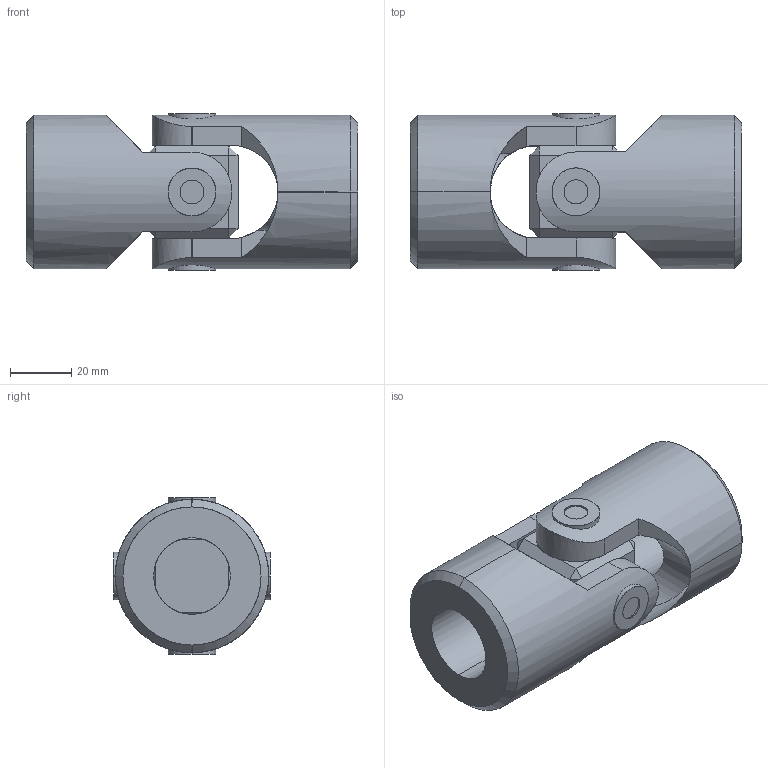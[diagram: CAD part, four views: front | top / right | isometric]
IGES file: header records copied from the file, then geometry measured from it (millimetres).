
Start section: SolidWorks IGES file using analytic representation for surfaces
Global section: file name: C:\Users\IanO\Desktop\R3690_v2\R3690_v2_20231020_IGES\R3690.025-RB.igs; native system: SolidWorks 2019; preprocessor: SolidWorks 2019; author: IanO; date: 231020.152315; units: millimetre
Bounding box: 108 x 51 x 51 mm (x, y, z)
Surface area: 40052.7 mm2 (no closed solid volume)
Topology: 0 solids, 0 shells, 104 faces, 2332 edges, 2332 vertices
Faces by surface type: bspline 56, revolution 48
